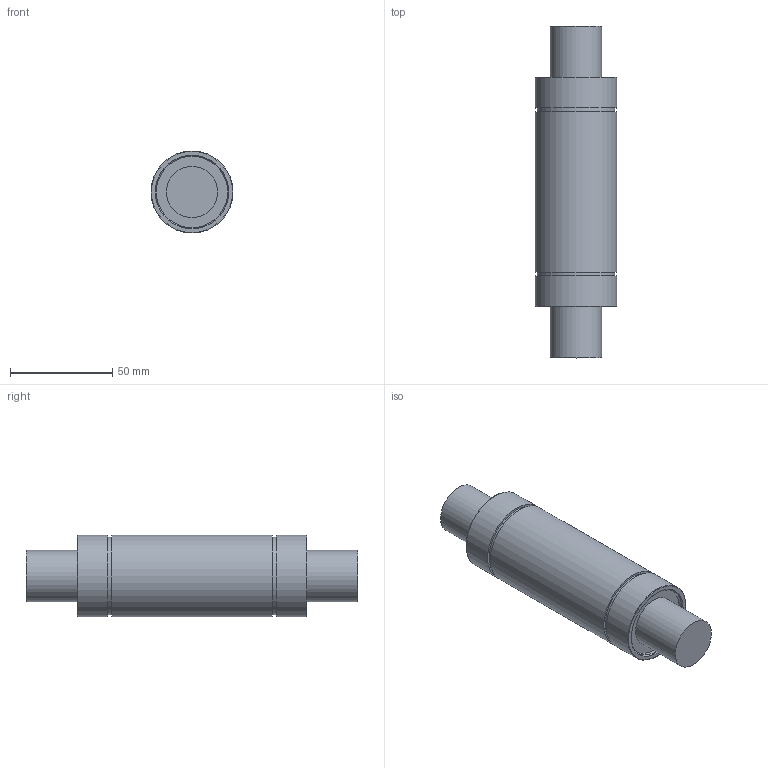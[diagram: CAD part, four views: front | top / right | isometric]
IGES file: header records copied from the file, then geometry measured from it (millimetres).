
Global section: file name: No Iges File Name specified; native system: Autodesk Inventor 2012; preprocessor: AutoDesk Inventor Iges Exporter R2012; author: user2; date: 20130206.102213; units: millimetre
Bounding box: 40 x 162 x 40 mm (x, y, z)
Volume: 162686.7 mm3; surface area: 21760.6 mm2
Topology: 1 solids, 1 shells, 23 faces, 37 edges, 24 vertices
Faces by surface type: plane 10, cylinder 7, revolution 4, torus 2
Full cylindrical faces by diameter (mm): 25 x2, 38 x2, 40 x3
